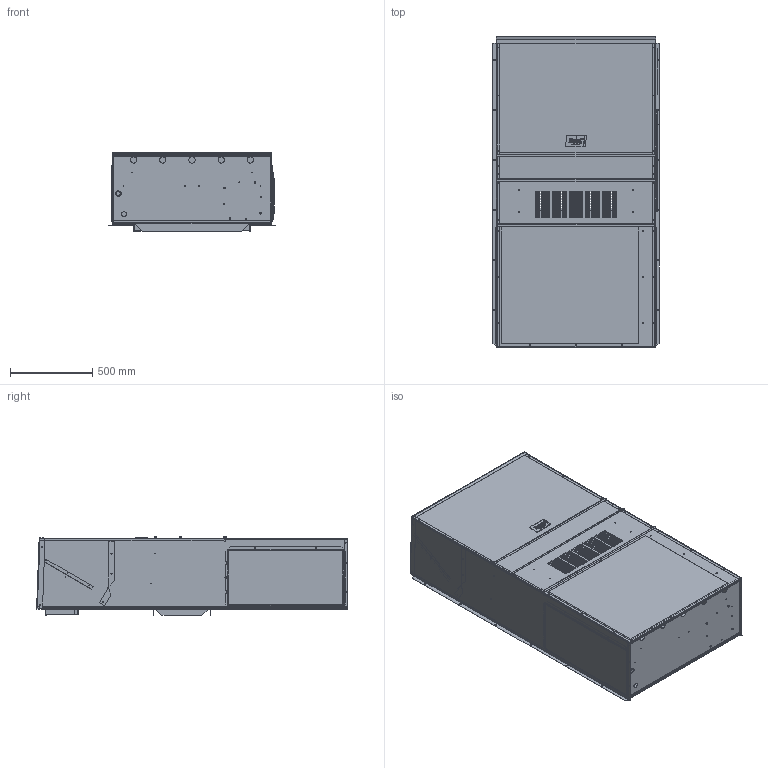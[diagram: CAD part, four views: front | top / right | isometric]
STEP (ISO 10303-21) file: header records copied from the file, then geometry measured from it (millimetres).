
FILE_DESCRIPTION (( 'STEP AP203' ), '1' );
FILE_NAME ('STEP_800.STEP', '2016-06-21T19:30:02', ( '' ), ( '' ), 'SwSTEP 2.0', 'SolidWorks 2016', '' );
FILE_SCHEMA (( 'CONFIG_CONTROL_DESIGN' ));
Products named in the file (1): STEP_800
Bounding box: 1015.56 x 1893.78 x 477.24 mm (x, y, z)
Volume: 6574655.4 mm3; surface area: 14004107.5 mm2
Topology: 34 solids, 34 shells, 3274 faces, 8834 edges, 5702 vertices
Faces by surface type: plane 1236, cylinder 991, torus 890, bspline 131, sphere 18, cone 8
Entity records: 128827 total; most frequent: CARTESIAN_POINT 43833, DIRECTION 18066, ORIENTED_EDGE 17644, EDGE_CURVE 8822, AXIS2_PLACEMENT_3D 6957, VERTEX_POINT 5700, LINE 4152, VECTOR 4152
